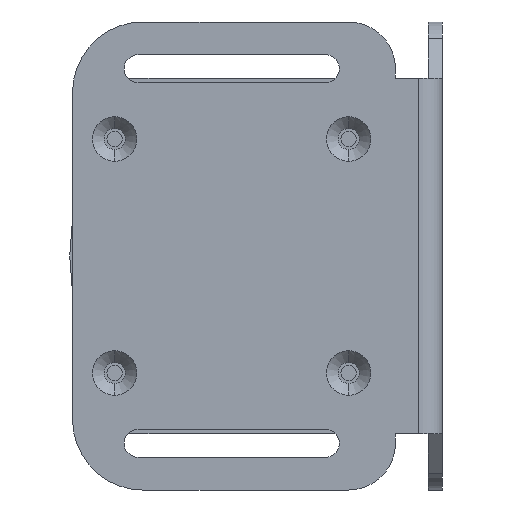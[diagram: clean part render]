
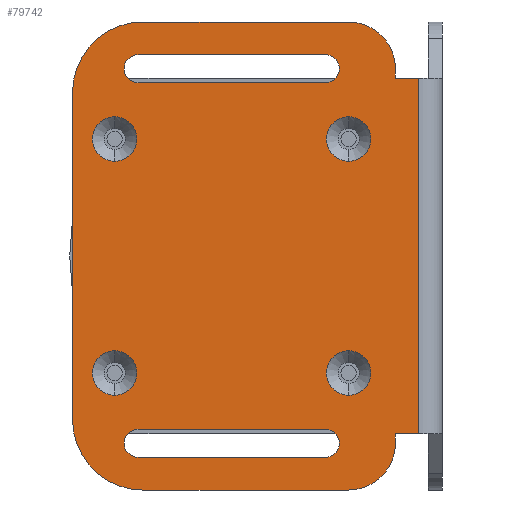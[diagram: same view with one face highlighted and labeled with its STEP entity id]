
A CAD part, front view. The second image highlights one B-rep face of the part: STEP entity #79742.
In plain terms, the highlighted planar face has unit normal (0, -1, 0) as drawn and (0, 0, -1) by its records, which use the part's own axes.
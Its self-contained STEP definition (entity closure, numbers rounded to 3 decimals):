
#77801=DIRECTION('',(0.,1.,0.));
#77802=VECTOR('',#77801,5.);
#77803=CARTESIAN_POINT('',(38.,-7.,-23.));
#77804=LINE('',#77803,#77802);
#77818=DIRECTION('',(-1.,0.,0.));
#77819=VECTOR('',#77818,76.);
#77820=CARTESIAN_POINT('',(38.,-2.,-23.));
#77821=LINE('',#77820,#77819);
#77996=DIRECTION('',(0.,1.,0.));
#77997=VECTOR('',#77996,5.);
#77998=CARTESIAN_POINT('',(-38.,-7.,-23.));
#77999=LINE('',#77998,#77997);
#78000=CARTESIAN_POINT('',(-40.,-17.,-23.));
#78001=DIRECTION('',(0.,0.,-1.));
#78002=DIRECTION('',(-1.,0.,0.));
#78003=AXIS2_PLACEMENT_3D('',#78000,#78001,#78002);
#78005=DIRECTION('',(0.,1.,0.));
#78006=VECTOR('',#78005,44.);
#78007=CARTESIAN_POINT('',(-50.,-61.,-23.));
#78008=LINE('',#78007,#78006);
#78009=CARTESIAN_POINT('',(-35.,-61.,-23.));
#78010=DIRECTION('',(0.,0.,-1.));
#78011=DIRECTION('',(0.,-1.,0.));
#78012=AXIS2_PLACEMENT_3D('',#78009,#78010,#78011);
#78014=CARTESIAN_POINT('',(35.,-61.,-23.));
#78015=DIRECTION('',(0.,0.,-1.));
#78016=DIRECTION('',(1.,0.,0.));
#78017=AXIS2_PLACEMENT_3D('',#78014,#78015,#78016);
#78019=CARTESIAN_POINT('',(40.,-17.,-23.));
#78020=DIRECTION('',(0.,0.,-1.));
#78021=DIRECTION('',(0.,1.,0.));
#78022=AXIS2_PLACEMENT_3D('',#78019,#78020,#78021);
#78024=DIRECTION('',(1.,0.,0.));
#78025=VECTOR('',#78024,2.);
#78026=CARTESIAN_POINT('',(38.,-7.,-23.));
#78027=LINE('',#78026,#78025);
#78028=CARTESIAN_POINT('',(40.,-62.,-23.));
#78029=DIRECTION('',(0.,0.,1.));
#78030=DIRECTION('',(-1.,0.,0.));
#78031=AXIS2_PLACEMENT_3D('',#78028,#78029,#78030);
#78033=CARTESIAN_POINT('',(40.,-22.,-23.));
#78034=DIRECTION('',(0.,0.,1.));
#78035=DIRECTION('',(1.,0.,0.));
#78036=AXIS2_PLACEMENT_3D('',#78033,#78034,#78035);
#78038=CARTESIAN_POINT('',(-40.,-62.,-23.));
#78039=DIRECTION('',(0.,0.,1.));
#78040=DIRECTION('',(-1.,0.,0.));
#78041=AXIS2_PLACEMENT_3D('',#78038,#78039,#78040);
#78043=CARTESIAN_POINT('',(-40.,-22.,-23.));
#78044=DIRECTION('',(0.,0.,1.));
#78045=DIRECTION('',(1.,0.,0.));
#78046=AXIS2_PLACEMENT_3D('',#78043,#78044,#78045);
#78048=DIRECTION('',(-1.,0.,0.));
#78049=VECTOR('',#78048,2.);
#78050=CARTESIAN_POINT('',(-38.,-7.,-23.));
#78051=LINE('',#78050,#78049);
#78076=DIRECTION('',(1.,0.,0.));
#78077=VECTOR('',#78076,70.);
#78078=CARTESIAN_POINT('',(-35.,-76.,-23.));
#78079=LINE('',#78078,#78077);
#78092=DIRECTION('',(0.,1.,0.));
#78093=VECTOR('',#78092,44.);
#78094=CARTESIAN_POINT('',(50.,-61.,-23.));
#78095=LINE('',#78094,#78093);
#78112=DIRECTION('',(0.,1.,0.));
#78113=VECTOR('',#78112,40.);
#78114=CARTESIAN_POINT('',(37.,-62.,-23.));
#78115=LINE('',#78114,#78113);
#78124=DIRECTION('',(0.,-1.,0.));
#78125=VECTOR('',#78124,40.);
#78126=CARTESIAN_POINT('',(43.,-22.,-23.));
#78127=LINE('',#78126,#78125);
#78136=DIRECTION('',(0.,1.,0.));
#78137=VECTOR('',#78136,40.);
#78138=CARTESIAN_POINT('',(-43.,-62.,-23.));
#78139=LINE('',#78138,#78137);
#78148=DIRECTION('',(0.,-1.,0.));
#78149=VECTOR('',#78148,40.);
#78150=CARTESIAN_POINT('',(-37.,-22.,-23.));
#78151=LINE('',#78150,#78149);
#78152=CARTESIAN_POINT('',(25.,-17.,-23.));
#78153=DIRECTION('',(0.,0.,1.));
#78154=DIRECTION('',(-1.,0.,0.));
#78155=AXIS2_PLACEMENT_3D('',#78152,#78153,#78154);
#78161=CARTESIAN_POINT('',(25.,-17.,-23.));
#78162=DIRECTION('',(0.,0.,1.));
#78163=DIRECTION('',(1.,0.,0.));
#78164=AXIS2_PLACEMENT_3D('',#78161,#78162,#78163);
#78188=CARTESIAN_POINT('',(25.,-67.,-23.));
#78189=DIRECTION('',(0.,0.,1.));
#78190=DIRECTION('',(1.,0.,0.));
#78191=AXIS2_PLACEMENT_3D('',#78188,#78189,#78190);
#78197=CARTESIAN_POINT('',(25.,-67.,-23.));
#78198=DIRECTION('',(0.,0.,1.));
#78199=DIRECTION('',(-1.,0.,0.));
#78200=AXIS2_PLACEMENT_3D('',#78197,#78198,#78199);
#78224=CARTESIAN_POINT('',(-25.,-67.,-23.));
#78225=DIRECTION('',(0.,0.,1.));
#78226=DIRECTION('',(-1.,0.,0.));
#78227=AXIS2_PLACEMENT_3D('',#78224,#78225,#78226);
#78233=CARTESIAN_POINT('',(-25.,-67.,-23.));
#78234=DIRECTION('',(0.,0.,1.));
#78235=DIRECTION('',(1.,0.,0.));
#78236=AXIS2_PLACEMENT_3D('',#78233,#78234,#78235);
#78260=CARTESIAN_POINT('',(-25.,-17.,-23.));
#78261=DIRECTION('',(0.,0.,1.));
#78262=DIRECTION('',(-1.,0.,0.));
#78263=AXIS2_PLACEMENT_3D('',#78260,#78261,#78262);
#78269=CARTESIAN_POINT('',(-25.,-17.,-23.));
#78270=DIRECTION('',(0.,0.,1.));
#78271=DIRECTION('',(1.,0.,0.));
#78272=AXIS2_PLACEMENT_3D('',#78269,#78270,#78271);
#78488=CARTESIAN_POINT('',(38.,-7.,-23.));
#78489=VERTEX_POINT('',#78488);
#78490=CARTESIAN_POINT('',(38.,-2.,-23.));
#78491=VERTEX_POINT('',#78490);
#78492=CARTESIAN_POINT('',(-38.,-2.,-23.));
#78493=VERTEX_POINT('',#78492);
#78494=CARTESIAN_POINT('',(-38.,-7.,-23.));
#78495=VERTEX_POINT('',#78494);
#78552=CARTESIAN_POINT('',(-20.25,-17.,-23.));
#78553=VERTEX_POINT('',#78552);
#78554=CARTESIAN_POINT('',(-29.75,-17.,-23.));
#78555=VERTEX_POINT('',#78554);
#78556=CARTESIAN_POINT('',(40.,-7.,-23.));
#78557=VERTEX_POINT('',#78556);
#78558=CARTESIAN_POINT('',(50.,-17.,-23.));
#78559=VERTEX_POINT('',#78558);
#78560=CARTESIAN_POINT('',(50.,-61.,-23.));
#78561=VERTEX_POINT('',#78560);
#78562=CARTESIAN_POINT('',(35.,-76.,-23.));
#78563=VERTEX_POINT('',#78562);
#78564=CARTESIAN_POINT('',(-35.,-76.,-23.));
#78565=VERTEX_POINT('',#78564);
#78566=CARTESIAN_POINT('',(-50.,-61.,-23.));
#78567=VERTEX_POINT('',#78566);
#78568=CARTESIAN_POINT('',(-50.,-17.,-23.));
#78569=VERTEX_POINT('',#78568);
#78570=CARTESIAN_POINT('',(-40.,-7.,-23.));
#78571=VERTEX_POINT('',#78570);
#78572=CARTESIAN_POINT('',(37.,-62.,-23.));
#78573=CARTESIAN_POINT('',(43.,-62.,-23.));
#78574=VERTEX_POINT('',#78572);
#78575=VERTEX_POINT('',#78573);
#78576=CARTESIAN_POINT('',(43.,-22.,-23.));
#78577=VERTEX_POINT('',#78576);
#78578=CARTESIAN_POINT('',(37.,-22.,-23.));
#78579=VERTEX_POINT('',#78578);
#78580=CARTESIAN_POINT('',(-43.,-62.,-23.));
#78581=CARTESIAN_POINT('',(-37.,-62.,-23.));
#78582=VERTEX_POINT('',#78580);
#78583=VERTEX_POINT('',#78581);
#78584=CARTESIAN_POINT('',(-37.,-22.,-23.));
#78585=VERTEX_POINT('',#78584);
#78586=CARTESIAN_POINT('',(-43.,-22.,-23.));
#78587=VERTEX_POINT('',#78586);
#78589=CARTESIAN_POINT('',(29.75,-17.,-23.));
#78591=VERTEX_POINT('',#78589);
#78593=CARTESIAN_POINT('',(20.25,-17.,-23.));
#78595=VERTEX_POINT('',#78593);
#78597=CARTESIAN_POINT('',(20.25,-67.,-23.));
#78599=VERTEX_POINT('',#78597);
#78601=CARTESIAN_POINT('',(29.75,-67.,-23.));
#78603=VERTEX_POINT('',#78601);
#78605=CARTESIAN_POINT('',(-20.25,-67.,-23.));
#78607=VERTEX_POINT('',#78605);
#78609=CARTESIAN_POINT('',(-29.75,-67.,-23.));
#78611=VERTEX_POINT('',#78609);
#79671=CARTESIAN_POINT('',(50.,3.,-23.));
#79672=DIRECTION('',(0.,0.,-1.));
#79673=DIRECTION('',(1.,0.,0.));
#79674=AXIS2_PLACEMENT_3D('',#79671,#79672,#79673);
#79675=PLANE('',#79674);
#79676=ORIENTED_EDGE('',*,*,#79447,.T.);
#79677=ORIENTED_EDGE('',*,*,#79467,.T.);
#79678=ORIENTED_EDGE('',*,*,#79487,.F.);
#79680=ORIENTED_EDGE('',*,*,#79679,.T.);
#79682=ORIENTED_EDGE('',*,*,#79681,.F.);
#79684=ORIENTED_EDGE('',*,*,#79683,.F.);
#79686=ORIENTED_EDGE('',*,*,#79685,.F.);
#79688=ORIENTED_EDGE('',*,*,#79687,.T.);
#79690=ORIENTED_EDGE('',*,*,#79689,.F.);
#79692=ORIENTED_EDGE('',*,*,#79691,.T.);
#79694=ORIENTED_EDGE('',*,*,#79693,.F.);
#79695=ORIENTED_EDGE('',*,*,#79662,.F.);
#79696=EDGE_LOOP('',(#79676,#79677,#79678,#79680,#79682,#79684,#79686,#79688,
#79690,#79692,#79694,#79695));
#79697=FACE_OUTER_BOUND('',#79696,.F.);
#79699=ORIENTED_EDGE('',*,*,#79698,.F.);
#79701=ORIENTED_EDGE('',*,*,#79700,.T.);
#79703=ORIENTED_EDGE('',*,*,#79702,.F.);
#79705=ORIENTED_EDGE('',*,*,#79704,.T.);
#79706=EDGE_LOOP('',(#79699,#79701,#79703,#79705));
#79707=FACE_BOUND('',#79706,.F.);
#79709=ORIENTED_EDGE('',*,*,#79708,.F.);
#79711=ORIENTED_EDGE('',*,*,#79710,.T.);
#79713=ORIENTED_EDGE('',*,*,#79712,.F.);
#79715=ORIENTED_EDGE('',*,*,#79714,.T.);
#79716=EDGE_LOOP('',(#79709,#79711,#79713,#79715));
#79717=FACE_BOUND('',#79716,.F.);
#79719=ORIENTED_EDGE('',*,*,#79718,.F.);
#79721=ORIENTED_EDGE('',*,*,#79720,.F.);
#79722=EDGE_LOOP('',(#79719,#79721));
#79723=FACE_BOUND('',#79722,.F.);
#79725=ORIENTED_EDGE('',*,*,#79724,.F.);
#79727=ORIENTED_EDGE('',*,*,#79726,.F.);
#79728=EDGE_LOOP('',(#79725,#79727));
#79729=FACE_BOUND('',#79728,.F.);
#79731=ORIENTED_EDGE('',*,*,#79730,.F.);
#79733=ORIENTED_EDGE('',*,*,#79732,.F.);
#79734=EDGE_LOOP('',(#79731,#79733));
#79735=FACE_BOUND('',#79734,.F.);
#79737=ORIENTED_EDGE('',*,*,#79736,.F.);
#79739=ORIENTED_EDGE('',*,*,#79738,.F.);
#79740=EDGE_LOOP('',(#79737,#79739));
#79741=FACE_BOUND('',#79740,.F.);
#79742=ADVANCED_FACE('',(#79697,#79707,#79717,#79723,#79729,#79735,#79741),
#79675,.T.);
#78004=CIRCLE('',#78003,10.);
#78013=CIRCLE('',#78012,15.);
#78018=CIRCLE('',#78017,15.);
#78023=CIRCLE('',#78022,10.);
#78032=CIRCLE('',#78031,3.);
#78037=CIRCLE('',#78036,3.);
#78042=CIRCLE('',#78041,3.);
#78047=CIRCLE('',#78046,3.);
#78156=CIRCLE('',#78155,4.75);
#78165=CIRCLE('',#78164,4.75);
#78192=CIRCLE('',#78191,4.75);
#78201=CIRCLE('',#78200,4.75);
#78228=CIRCLE('',#78227,4.75);
#78237=CIRCLE('',#78236,4.75);
#78264=CIRCLE('',#78263,4.75);
#78273=CIRCLE('',#78272,4.75);
#79447=EDGE_CURVE('',#78489,#78491,#77804,.T.);
#79467=EDGE_CURVE('',#78491,#78493,#77821,.T.);
#79487=EDGE_CURVE('',#78495,#78493,#77999,.T.);
#79662=EDGE_CURVE('',#78489,#78557,#78027,.T.);
#79679=EDGE_CURVE('',#78495,#78571,#78051,.T.);
#79681=EDGE_CURVE('',#78569,#78571,#78004,.T.);
#79683=EDGE_CURVE('',#78567,#78569,#78008,.T.);
#79685=EDGE_CURVE('',#78565,#78567,#78013,.T.);
#79687=EDGE_CURVE('',#78565,#78563,#78079,.T.);
#79689=EDGE_CURVE('',#78561,#78563,#78018,.T.);
#79691=EDGE_CURVE('',#78561,#78559,#78095,.T.);
#79693=EDGE_CURVE('',#78557,#78559,#78023,.T.);
#79698=EDGE_CURVE('',#78574,#78575,#78032,.T.);
#79700=EDGE_CURVE('',#78574,#78579,#78115,.T.);
#79702=EDGE_CURVE('',#78577,#78579,#78037,.T.);
#79704=EDGE_CURVE('',#78577,#78575,#78127,.T.);
#79708=EDGE_CURVE('',#78582,#78583,#78042,.T.);
#79710=EDGE_CURVE('',#78582,#78587,#78139,.T.);
#79712=EDGE_CURVE('',#78585,#78587,#78047,.T.);
#79714=EDGE_CURVE('',#78585,#78583,#78151,.T.);
#79718=EDGE_CURVE('',#78595,#78591,#78156,.T.);
#79720=EDGE_CURVE('',#78591,#78595,#78165,.T.);
#79724=EDGE_CURVE('',#78603,#78599,#78192,.T.);
#79726=EDGE_CURVE('',#78599,#78603,#78201,.T.);
#79730=EDGE_CURVE('',#78611,#78607,#78228,.T.);
#79732=EDGE_CURVE('',#78607,#78611,#78237,.T.);
#79736=EDGE_CURVE('',#78555,#78553,#78264,.T.);
#79738=EDGE_CURVE('',#78553,#78555,#78273,.T.);
